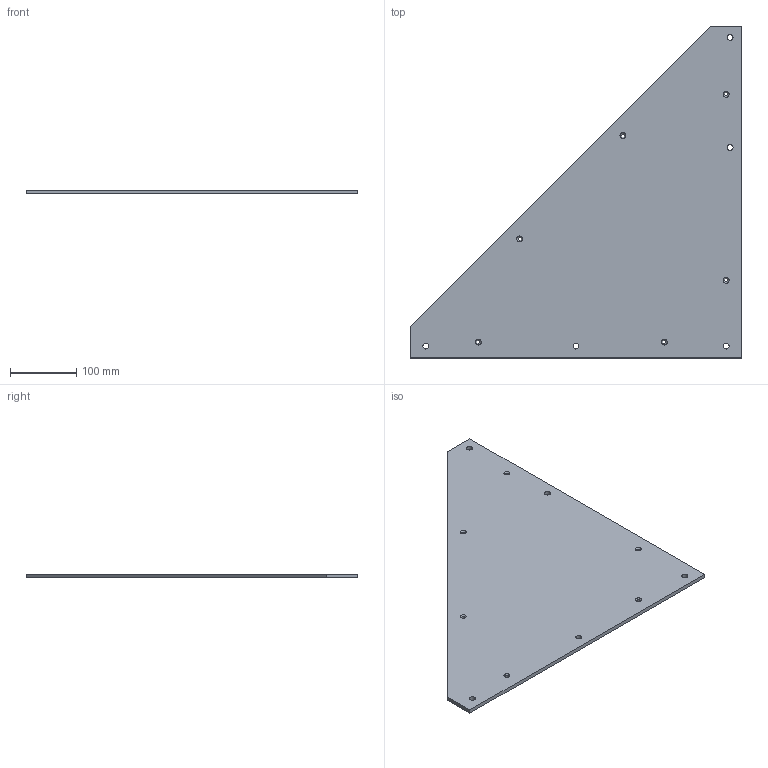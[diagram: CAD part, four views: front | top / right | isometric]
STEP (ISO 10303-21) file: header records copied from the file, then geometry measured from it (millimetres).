
FILE_DESCRIPTION (( 'STEP AP203' ), '1' );
FILE_NAME ('Base_Coté.STEP', '2026-06-24T07:29:49', ( '' ), ( '' ), 'SwSTEP 2.0', 'SolidWorks 2024', '' );
FILE_SCHEMA (( 'CONFIG_CONTROL_DESIGN' ));
Length unit declared in the file: millimetre
Products named in the file (1): Base_Coté_Gauche
Bounding box: 500 x 500 x 6 mm (x, y, z)
Volume: 884233.9 mm3; surface area: 306570.1 mm2
Topology: 1 solids, 1 shells, 24 faces, 66 edges, 44 vertices
Faces by surface type: cylinder 11, plane 7, cone 6
Full cylindrical faces by diameter (mm): 5 x6, 9 x5
Entity records: 758 total; most frequent: DIRECTION 121, CARTESIAN_POINT 106, ORIENTED_EDGE 86, EDGE_LOOP 63, AXIS2_PLACEMENT_3D 53, EDGE_CURVE 43, VERTEX_POINT 38, FACE_OUTER_BOUND 35
